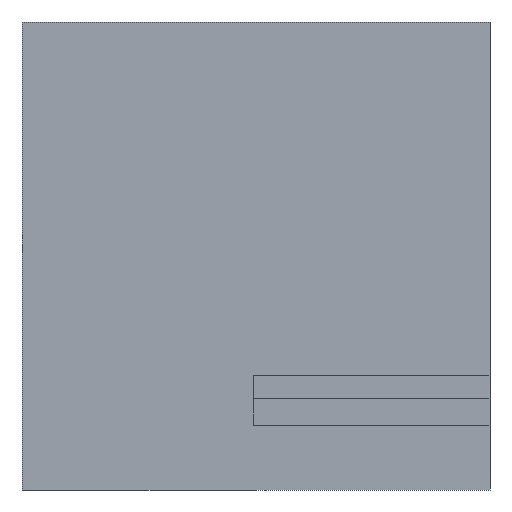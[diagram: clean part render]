
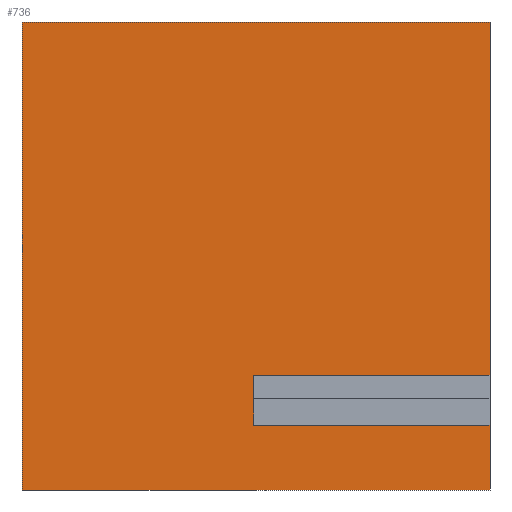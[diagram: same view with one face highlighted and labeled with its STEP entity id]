
A CAD part, left-side view. The second image highlights one B-rep face of the part: STEP entity #736.
In plain terms, the highlighted planar face has unit normal (-1, 0, 0).
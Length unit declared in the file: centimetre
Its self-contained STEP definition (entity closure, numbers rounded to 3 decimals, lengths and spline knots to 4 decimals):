
#3 = CARTESIAN_POINT ( 'NONE',  ( 0., 1000., 1000. ) ) ;
#14 = VERTEX_POINT ( 'NONE', #620 ) ;
#37 = CARTESIAN_POINT ( 'NONE',  ( 0., 504.6275, 138.3949 ) ) ;
#53 = DIRECTION ( 'NONE',  ( 0., 0., -1. ) ) ;
#62 = DIRECTION ( 'NONE',  ( 0., -1., 0. ) ) ;
#120 = LINE ( 'NONE', #192, #153 ) ;
#127 = VECTOR ( 'NONE', #634, 100. ) ;
#153 = VECTOR ( 'NONE', #53, 100. ) ;
#164 = VERTEX_POINT ( 'NONE', #506 ) ;
#178 = EDGE_CURVE ( 'NONE', #876, #225, #120, .T. ) ;
#183 = ORIENTED_EDGE ( 'NONE', *, *, #508, .F. ) ;
#192 = CARTESIAN_POINT ( 'NONE',  ( 0., 0., 1000. ) ) ;
#222 = DIRECTION ( 'NONE',  ( 0., 0., -1. ) ) ;
#225 = VERTEX_POINT ( 'NONE', #644 ) ;
#229 = VERTEX_POINT ( 'NONE', #859 ) ;
#249 = VECTOR ( 'NONE', #764, 100. ) ;
#298 = FACE_OUTER_BOUND ( 'NONE', #851, .T. ) ;
#316 = EDGE_CURVE ( 'NONE', #14, #225, #443, .T. ) ;
#322 = CARTESIAN_POINT ( 'NONE',  ( 0., 0., 138.3949 ) ) ;
#345 = ORIENTED_EDGE ( 'NONE', *, *, #367, .T. ) ;
#365 = CARTESIAN_POINT ( 'NONE',  ( 0., 0., 1000. ) ) ;
#367 = EDGE_CURVE ( 'NONE', #807, #14, #516, .T. ) ;
#371 = LINE ( 'NONE', #365, #448 ) ;
#385 = ORIENTED_EDGE ( 'NONE', *, *, #178, .F. ) ;
#436 = CARTESIAN_POINT ( 'NONE',  ( 0., 1000., 1000. ) ) ;
#443 = LINE ( 'NONE', #447, #880 ) ;
#444 = DIRECTION ( 'NONE',  ( 1., 0., 0. ) ) ;
#447 = CARTESIAN_POINT ( 'NONE',  ( 0., 1000., 0. ) ) ;
#448 = VECTOR ( 'NONE', #668, 100. ) ;
#451 = EDGE_CURVE ( 'NONE', #164, #868, #646, .T. ) ;
#465 = VECTOR ( 'NONE', #571, 100. ) ;
#472 = CARTESIAN_POINT ( 'NONE',  ( 0., 504.6275, 245.1195 ) ) ;
#493 = CARTESIAN_POINT ( 'NONE',  ( 0., 1000., 1000. ) ) ;
#506 = CARTESIAN_POINT ( 'NONE',  ( 0., 504.6275, 245.1195 ) ) ;
#508 = EDGE_CURVE ( 'NONE', #868, #876, #707, .T. ) ;
#516 = LINE ( 'NONE', #663, #909 ) ;
#562 = VERTEX_POINT ( 'NONE', #916 ) ;
#571 = DIRECTION ( 'NONE',  ( 0., 0., -1. ) ) ;
#577 = CARTESIAN_POINT ( 'NONE',  ( 0., 504.6275, 138.3949 ) ) ;
#585 = EDGE_CURVE ( 'NONE', #807, #562, #710, .T. ) ;
#598 = PLANE ( 'NONE',  #662 ) ;
#620 = CARTESIAN_POINT ( 'NONE',  ( 0., 1000., 0. ) ) ;
#634 = DIRECTION ( 'NONE',  ( 0., -1., 0. ) ) ;
#644 = CARTESIAN_POINT ( 'NONE',  ( 0., 0., 0. ) ) ;
#646 = LINE ( 'NONE', #577, #465 ) ;
#662 = AXIS2_PLACEMENT_3D ( 'NONE', #436, #444, #726 ) ;
#663 = CARTESIAN_POINT ( 'NONE',  ( 0., 1000., 1000. ) ) ;
#665 = ORIENTED_EDGE ( 'NONE', *, *, #451, .F. ) ;
#668 = DIRECTION ( 'NONE',  ( 0., 0., -1. ) ) ;
#690 = ORIENTED_EDGE ( 'NONE', *, *, #316, .T. ) ;
#707 = LINE ( 'NONE', #37, #249 ) ;
#710 = LINE ( 'NONE', #493, #127 ) ;
#726 = DIRECTION ( 'NONE',  ( 0., 0., -1. ) ) ;
#728 = EDGE_CURVE ( 'NONE', #562, #229, #371, .T. ) ;
#736 = ADVANCED_FACE ( 'NONE', ( #298 ), #598, .F. ) ;
#746 = DIRECTION ( 'NONE',  ( 0., -1., 0. ) ) ;
#756 = ORIENTED_EDGE ( 'NONE', *, *, #728, .F. ) ;
#764 = DIRECTION ( 'NONE',  ( 0., -1., 0. ) ) ;
#803 = ORIENTED_EDGE ( 'NONE', *, *, #585, .F. ) ;
#807 = VERTEX_POINT ( 'NONE', #3 ) ;
#825 = ORIENTED_EDGE ( 'NONE', *, *, #891, .T. ) ;
#851 = EDGE_LOOP ( 'NONE', ( #665, #825, #756, #803, #345, #690, #385, #183 ) ) ;
#859 = CARTESIAN_POINT ( 'NONE',  ( 0., 0., 245.1195 ) ) ;
#868 = VERTEX_POINT ( 'NONE', #878 ) ;
#876 = VERTEX_POINT ( 'NONE', #322 ) ;
#878 = CARTESIAN_POINT ( 'NONE',  ( 0., 504.6275, 138.3949 ) ) ;
#880 = VECTOR ( 'NONE', #62, 100. ) ;
#882 = LINE ( 'NONE', #472, #919 ) ;
#891 = EDGE_CURVE ( 'NONE', #164, #229, #882, .T. ) ;
#909 = VECTOR ( 'NONE', #222, 100. ) ;
#916 = CARTESIAN_POINT ( 'NONE',  ( 0., 0., 1000. ) ) ;
#919 = VECTOR ( 'NONE', #746, 100. ) ;
